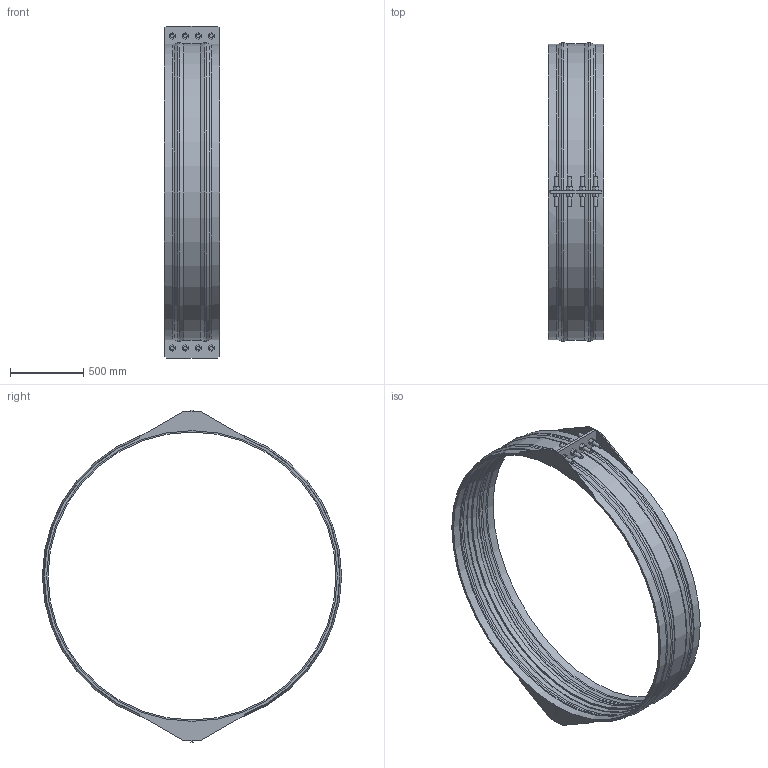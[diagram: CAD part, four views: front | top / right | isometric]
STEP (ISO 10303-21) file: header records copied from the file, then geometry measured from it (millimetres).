
FILE_DESCRIPTION(/* description */ ('VIC RESTRAINED COUPLING STYLE 233 (FLEX) (BRD)','CAx-IF Rec.Pracs.---Representation and Presentation of Product Manufacturing Information (PMI)---4.0---2014-10-13'),/* implementation_level */ '2;1');
FILE_NAME(/* name */ 'C:\Users\Vjadhav\Desktop\CAD for Inventor\Test for STEP\Vivek\Adsk_Inventor_Bolted Sleeve_iParts\STEP\Victaulic_VBSP_Coupling Flexible Restrained_Style 233 (BRD)\Victaulic_VBSP_Coupling Flexible Restrained_Style 233 (BRD)_175psi_78 (1950).stp',/* time_stamp */ '2020-09-24T12:31:12+05:00',/* author */ ('Vjadhav'),/* organization */ ('Victaulic'),/* preprocessor_version */ 'ST-DEVELOPER v17.2',/* originating_system */ 'Autodesk Inventor 2019',/* authorisation */ '');
FILE_SCHEMA (('AP242_MANAGED_MODEL_BASED_3D_ENGINEERING_MIM_LF { 1 0 10303 442 1 1 4 }'));
Length unit declared in the file: inch
Products named in the file (1): Style_233_Type_2_175psi-78.0
Bounding box: 381 x 2039.64 x 2263.14 mm (x, y, z)
Volume: 45461920.7 mm3; surface area: 5943032.5 mm2
Topology: 1 solids, 1 shells, 239 faces, 625 edges, 422 vertices
Faces by surface type: plane 166, cylinder 43, torus 18, cone 12
Full cylindrical faces by diameter (mm): 25.4 x16, 1962.15 x1, 1981.2 x2, 1987.55 x2
Entity records: 7896 total; most frequent: CARTESIAN_POINT 1496, DIRECTION 1259, ORIENTED_EDGE 1250, EDGE_CURVE 625, LINE 449, VECTOR 449, VERTEX_POINT 422, AXIS2_PLACEMENT_3D 405
